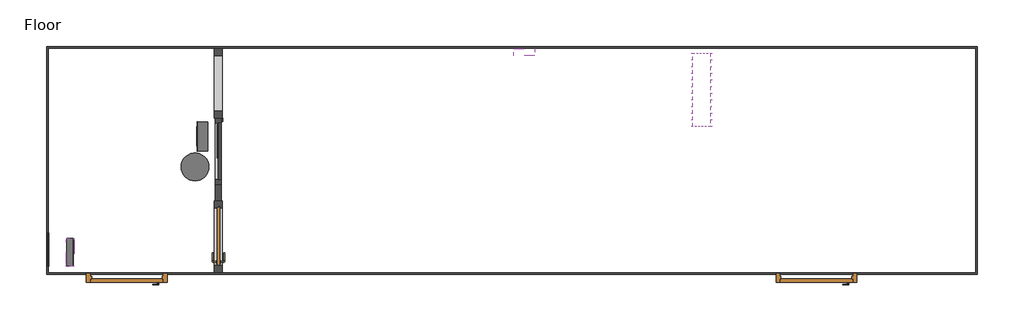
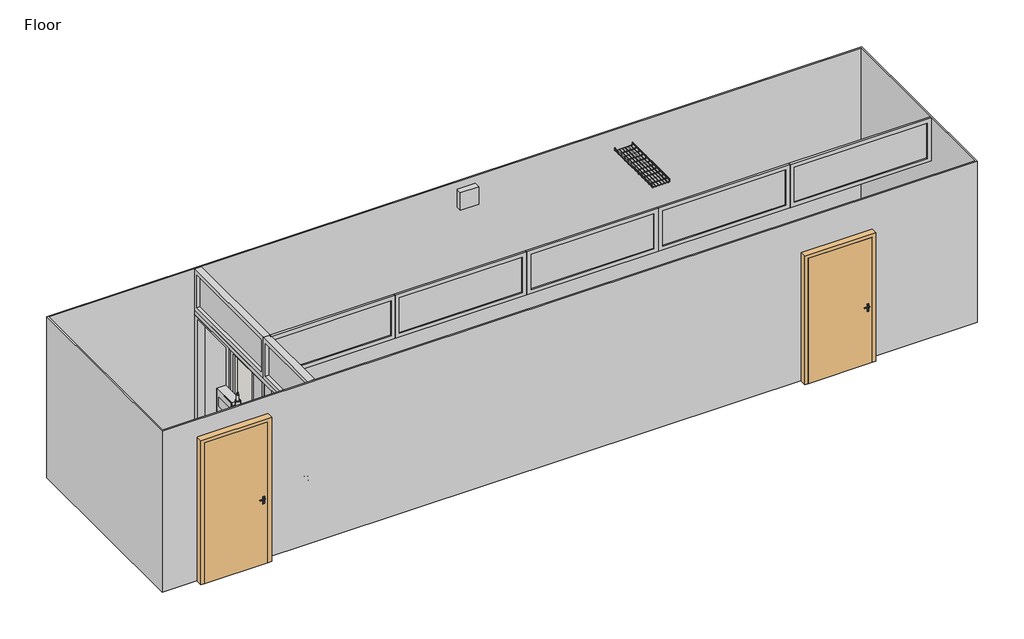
# One storey, incomplete: 5 doors, 4 proxies, 2 beams, 2 walls, 1 alarm, 1 cable carrier fitting.
"""IFC4 building model written with IfcOpenShell, lengths in millimetres."""

from ifc_helpers import new_model, si_unit, origin, place, context, project, spatial, transform, mapped, element, save
from components import cylinder_16_cylinder_16_0544394a, beam_8df811e3, beam_2369a8d3, electrical_equipment_9a1382ec, e2m_access_control_panel_cf59e728, fire_alarm_control_panel_5a65a3f3, generator_annunciator_panel_a3cc0efe, standard_7ae58fae, standard_2e2cd0d7, door_f1603644, door_5ed18baa, door_93eec490, door_ec6a2b26, default_aace1b21, walls_5_walls_2_e6dc0c2e, walls_6_walls_2_bc99a6c9

model = new_model("IFC4")

# Units and contexts
model_context = context("Model", 3, world=origin())
ifc_project = project(units=[si_unit("LENGTHUNIT", "METRE", prefix="MILLI")], contexts=[model_context])

# Site, building, storey
site = spatial("IfcSite", under=ifc_project)
building = spatial("IfcBuilding", under=site)
storey = spatial("IfcBuildingStorey", under=building, Name="Floor", Elevation=387.0)

# Alarm
placement = place(None, origin())
cylinder_16_cylinder_16_shape = cylinder_16_cylinder_16_0544394a(model_context)
element("IfcAlarm", 1, ObjectType="Cylinder_16 : Cylinder_16", at=placement, inside=storey, context=model_context, shape_type="MappedRepresentation", body=[
    mapped(cylinder_16_cylinder_16_shape, transform((8253.6557057, 2070.7878179, 387.0), x_axis=(1.0, 0.0, 0.0), y_axis=(0.0, 1.0, 0.0), z_axis=(0.0, 0.0, 1.0))),
])

# Beams
beam_shape = beam_8df811e3(model_context)
element("IfcBeam", 2, ObjectType="Insulation and doors-CONFIG-4 : Insulation and doors-CONFIG-4", at=placement, inside=storey, context=model_context, shape_type="MappedRepresentation", body=[
    mapped(beam_shape, transform((5865.6950561, 487.2028554, -18.0), x_axis=(1.0, 0.0, 0.0), y_axis=(0.0, 1.0, 0.0), z_axis=(0.0, 0.0, 1.0))),
])
beam_2_shape = beam_2369a8d3(model_context)
element("IfcBeam", 3, ObjectType="partition and doors-CONFIG-4 : partition and doors-CONFIG-4", at=placement, inside=storey, context=model_context, shape_type="MappedRepresentation", body=[
    mapped(beam_2_shape, transform((5865.6950561, 559.4671944, -18.0), x_axis=(1.0, 0.0, 0.0), y_axis=(0.0, 1.0, 0.0), z_axis=(0.0, 0.0, 1.0))),
])

# Proxies
electrical_equipment_shape = electrical_equipment_9a1382ec(model_context)
element("IfcBuildingElementProxy", 4, Name="DX_InRow_Control : DX_InRow_Control", ObjectType="DX_InRow_Control : DX_InRow_Control", at=placement, inside=storey, context=model_context, shape_type="MappedRepresentation", body=[
    mapped(electrical_equipment_shape, transform((13167.9196405, 3868.5638219, 2788.1597439), x_axis=(-1.0, 0.0, 0.0), y_axis=(0.0, -1.0, 0.0), z_axis=(0.0, 0.0, 1.0))),
])
e2m_access_control_panel_shape = e2m_access_control_panel_cf59e728(model_context)
element("IfcBuildingElementProxy", 5, Name="E2M_CF4_Access_Control_Panel_Wallmount_with_3inch_Strut_BIM_Model : E2M-Access Control Panel", ObjectType="E2M_CF4_Access_Control_Panel_Wallmount_with_3inch_Strut_BIM_Model : E2M-Access Control Panel", at=placement, inside=storey, context=model_context, shape_type="MappedRepresentation", body=[
    mapped(e2m_access_control_panel_shape, transform((6094.8429634, 827.8183425, 801.6066268), x_axis=(0.0, -1.0, 0.0), y_axis=(1.0, 0.0, 0.0), z_axis=(0.0, 0.0, 1.0))),
])
fire_alarm_control_panel_shape = fire_alarm_control_panel_5a65a3f3(model_context)
element("IfcBuildingElementProxy", 6, Name="Fire_Alarm_Control_Panel_Wallmount_with_3inch_Strut_BIM_Model : Fire Alarm Control Panel", ObjectType="Fire_Alarm_Control_Panel_Wallmount_with_3inch_Strut_BIM_Model : Fire Alarm Control Panel", at=placement, inside=storey, context=model_context, shape_type="MappedRepresentation", body=[
    mapped(fire_alarm_control_panel_shape, transform((8581.8194283, 2388.9715001, 914.8515743), x_axis=(0.0, 1.0, 0.0), y_axis=(-1.0, 0.0, 0.0), z_axis=(0.0, 0.0, 1.0))),
])
generator_annunciator_panel_shape = generator_annunciator_panel_a3cc0efe(model_context)
element("IfcBuildingElementProxy", 7, Name="Generator_Annunciator_Panel_Wallmount_with_3inch_Strut_BIM_Model : Generator Annunciator Panel", ObjectType="Generator_Annunciator_Panel_Wallmount_with_3inch_Strut_BIM_Model : Generator Annunciator Panel", at=placement, inside=storey, context=model_context, shape_type="MappedRepresentation", body=[
    mapped(generator_annunciator_panel_shape, transform((6090.8429634, 953.9826343, 809.5001144), x_axis=(0.0, -1.0, 0.0), y_axis=(1.0, 0.0, 0.0), z_axis=(0.0, 0.0, 1.0))),
])

# Cable carrier fitting
standard_shape = standard_7ae58fae(model_context)
standard_2_shape = standard_2e2cd0d7(model_context)
element("IfcCableCarrierFitting", 8, ObjectType="CableTray_Atkore-Straight-Length : Standard", at=placement, inside=storey, context=model_context, shape_type="MappedRepresentation", body=[
    mapped(standard_shape, transform((15620.9353251, 3724.6634131, 2928.5), x_axis=(0.0, -1.0, 0.0), y_axis=(1.0, 0.0, 0.0), z_axis=(0.0, 0.0, 1.0))),
    mapped(standard_2_shape, transform((15620.9353251, 3724.6634131, 2928.5), x_axis=(0.0, -1.0, 0.0), y_axis=(1.0, 0.0, 0.0), z_axis=(0.0, 0.0, 1.0))),
])

# Doors
door_shape = door_f1603644(model_context)
element("IfcDoor", 9, ObjectType="DoorPanel_Steel_Republic_F : DoorPanel_Steel_Republic_F", at=placement, inside=storey, context=model_context, shape_type="MappedRepresentation", body=[
    mapped(door_shape, transform((17293.354026, 414.7066728, 387.5), x_axis=(-1.0, 0.0, 0.0), y_axis=(0.0, -1.0, 0.0), z_axis=(0.0, 0.0, 1.0))),
])
door_2_shape = door_5ed18baa(model_context)
element("IfcDoor", 10, ObjectType="Door_Steel_Republic_Single-DoubleRabbet-Equal : ByType", at=placement, inside=storey, context=model_context, shape_type="MappedRepresentation", body=[
    mapped(door_2_shape, transform((18875.4447228, -405.159371, 387.5), x_axis=(-1.0, 0.0, 0.0), y_axis=(0.0, -1.0, 0.0), z_axis=(0.0, 0.0, 1.0))),
])
door_3_shape = door_93eec490(model_context)
element("IfcDoor", 11, ObjectType="DoorPanel_Steel_Republic_F : DoorPanel_Steel_Republic_F", at=placement, inside=storey, context=model_context, shape_type="MappedRepresentation", body=[
    mapped(door_3_shape, transform((7261.3652419, 414.7066728, 387.5), x_axis=(-1.0, 0.0, 0.0), y_axis=(0.0, -1.0, 0.0), z_axis=(0.0, 0.0, 1.0))),
])
door_4_shape = door_ec6a2b26(model_context)
element("IfcDoor", 12, ObjectType="Door_Steel_Republic_Single-DoubleRabbet-Equal : ByType", at=placement, inside=storey, context=model_context, shape_type="MappedRepresentation", body=[
    mapped(door_4_shape, transform((8843.4559387, -405.159371, 387.5), x_axis=(-1.0, 0.0, 0.0), y_axis=(0.0, -1.0, 0.0), z_axis=(0.0, 0.0, 1.0))),
])
default_shape = default_aace1b21(model_context)
element("IfcDoor", 13, ObjectType="Panel_FIN_40D_Rebated_Glazed_05 without vent : default", at=placement, inside=storey, context=model_context, shape_type="MappedRepresentation", body=[
    mapped(default_shape, transform((8614.6906145, 1062.3460118, 418.7771078), x_axis=(0.0, 1.0, 0.0), y_axis=(-1.0, 0.0, 0.0), z_axis=(0.0, 0.0, 1.0))),
])

# Walls
walls_5_walls_2_shape = walls_5_walls_2_e6dc0c2e(model_context)
element("IfcWall", 14, ObjectType="Walls 5 : Walls 2", at=placement, inside=storey, context=model_context, shape_type="MappedRepresentation", body=[
    mapped(walls_5_walls_2_shape, transform((-2190.4130263, -1391.407646, 0.0), x_axis=(1.0, 0.0, 0.0), y_axis=(0.0, 1.0, 0.0), z_axis=(0.0, 0.0, 1.0))),
])
walls_6_walls_2_shape = walls_6_walls_2_bc99a6c9(model_context)
element("IfcWall", 15, ObjectType="Walls 6 : Walls 2", at=placement, inside=storey, context=model_context, shape_type="MappedRepresentation", body=[
    mapped(walls_6_walls_2_shape, transform((283.836604, 188.8570438, 0.0), x_axis=(1.0, 0.0, 0.0), y_axis=(0.0, 1.0, 0.0), z_axis=(0.0, 0.0, 1.0))),
])

save(model, "model.ifc")
